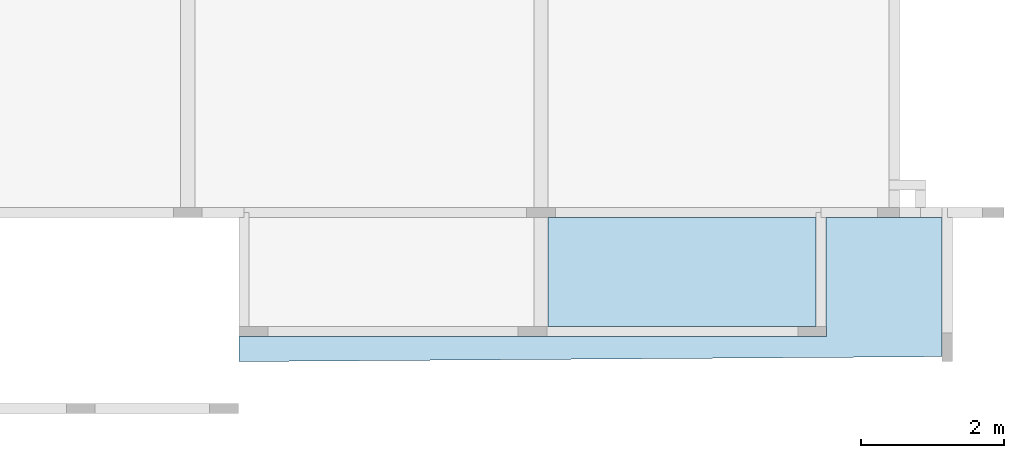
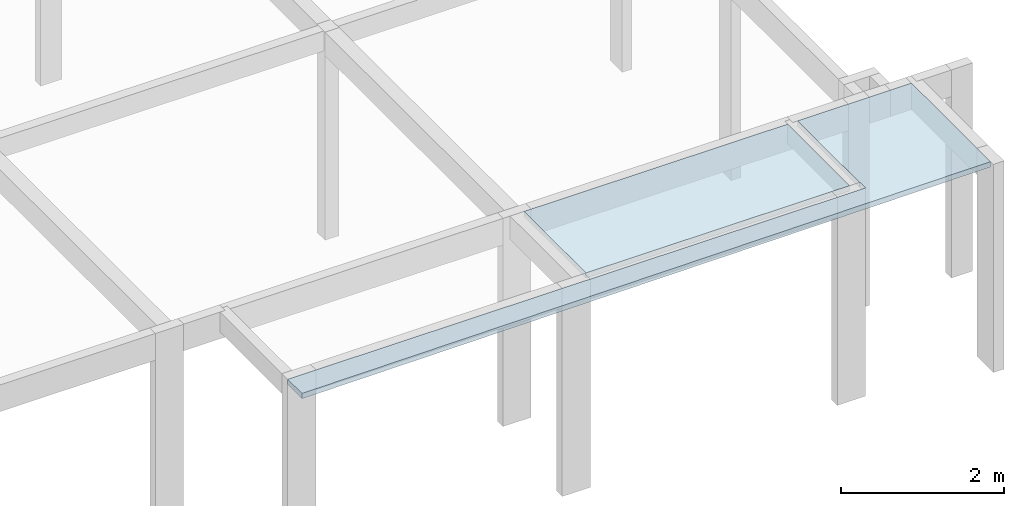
# One storey, part 2 of 7: 2 slabs.
"""IFC4 building model written with IfcOpenShell, lengths in centimetres."""

import ifcopenshell
import ifcopenshell.guid

model = None  # the IFC model being written
_history = None  # IfcOwnerHistory: only IFC2X3 demands one
_inside = {}  # id of a spatial element -> (the spatial element, [elements in it])
_under = {}  # id of a project, library or spatial element -> (it, [spatial elements below it])
_declared = {}  # id of a project -> (the project, [libraries it declares])
_typed = {}  # id of a type object -> (the type object, [elements of that type])
_made_of = {}  # id of a material, layer set ... -> (it, [elements and type objects made of it])


def new_model(schema):
    """Start an empty IFC model of exactly this schema.

    Asked for "IFC4X3", IfcOpenShell would pick the latest addendum, in which some entities
    have other attributes; the version numbers below select the first issue.
    IFC2X3 requires an IfcOwnerHistory on every rooted entity: one is made here for all.
    """
    global model, _history
    if schema == "IFC4X3":
        model = ifcopenshell.file(schema_version=(4, 3, 0, 0))
    else:
        model = ifcopenshell.file(schema=schema)
    _inside.clear()
    _under.clear()
    _declared.clear()
    _typed.clear()
    _made_of.clear()
    _history = None
    if model.schema == "IFC2X3":
        org = make("IfcOrganization", Name="unknown")
        user = make(
            "IfcPersonAndOrganization",
            ThePerson=make("IfcPerson", FamilyName="unknown"),
            TheOrganization=org,
        )
        app = make(
            "IfcApplication",
            ApplicationDeveloper=org,
            Version="unknown",
            ApplicationFullName="unknown",
            ApplicationIdentifier="unknown",
        )
        _history = make(
            "IfcOwnerHistory",
            OwningUser=user,
            OwningApplication=app,
            ChangeAction="ADDED",
            CreationDate=0,
        )
    return model


def make(cls, **values):
    """One entity of the class cls with the attributes given. An attribute that is None is left unset."""
    return model.create_entity(
        cls, **{name: value for name, value in values.items() if value is not None}
    )


def rooted(cls, **values):
    """An entity with a GlobalId (a new one), such as an element, a storey or a relation."""
    return make(cls, GlobalId=ifcopenshell.guid.new(), OwnerHistory=_history, **values)


def si_unit(unit_type, name, prefix=None):
    """IfcSIUnit, for example si_unit("LENGTHUNIT", "METRE", prefix="MILLI")."""
    return make("IfcSIUnit", UnitType=unit_type, Prefix=prefix, Name=name)


def derived_unit(unit_type, elements):
    """IfcDerivedUnit: a product of units, each with its exponent."""
    return make(
        "IfcDerivedUnit",
        Elements=[
            make("IfcDerivedUnitElement", Unit=unit, Exponent=power)
            for unit, power in elements
        ],
        UnitType=unit_type,
    )


def assignment(units):
    """IfcUnitAssignment: the units of a project."""
    return None if units is None else make("IfcUnitAssignment", Units=units)


def point(xyz):
    """IfcCartesianPoint."""
    return None if xyz is None else make("IfcCartesianPoint", Coordinates=xyz)


def direction(xyz):
    """IfcDirection."""
    return None if xyz is None else make("IfcDirection", DirectionRatios=xyz)


def frame(location, z_axis=None, x_axis=None):
    """IfcAxis2Placement3D, a coordinate frame: its origin and axes. An axis left out is left unset."""
    return make(
        "IfcAxis2Placement3D",
        Location=point(location),
        Axis=direction(z_axis),
        RefDirection=direction(x_axis),
    )


def origin_with_axes():
    """The frame at (0, 0, 0) with the z axis (0, 0, 1) and the x axis (1, 0, 0) written out."""
    return frame((0.0, 0.0, 0.0), z_axis=(0.0, 0.0, 1.0), x_axis=(1.0, 0.0, 0.0))


def place(relative_to, where):
    """IfcLocalPlacement: puts the frame where relative to a parent placement (None: the world)."""
    return make(
        "IfcLocalPlacement", PlacementRelTo=relative_to, RelativePlacement=where
    )


def context(
    kind, dimensions, precision=None, world=None, true_north=None, identifier=None
):
    """IfcGeometricRepresentationContext, for example the 3D "Model" context."""
    return make(
        "IfcGeometricRepresentationContext",
        ContextIdentifier=identifier,
        ContextType=kind,
        CoordinateSpaceDimension=dimensions,
        Precision=precision,
        WorldCoordinateSystem=world,
        TrueNorth=true_north,
    )


def project(units=None, contexts=None):
    """IfcProject with its units and contexts."""
    return rooted(
        "IfcProject",
        Name="project",
        RepresentationContexts=contexts,
        UnitsInContext=assignment(units),
    )


def spatial(cls, under=None, at=None, **own):
    """A site, building, storey or space (cls), placed at a placement, below another one or the project."""
    s = rooted(cls, ObjectPlacement=at, **own)
    if under is not None:
        _under.setdefault(under.id(), (under, []))[1].append(s)
    return s


def polyline(points):
    """IfcPolyline through the points."""
    return make("IfcPolyline", Points=[point(p) for p in points])


def outline(outer, holes=None, kind="AREA"):
    """IfcArbitraryClosedProfileDef: a profile drawn as a closed curve; with holes, ...WithVoids."""
    if holes is None:
        return make("IfcArbitraryClosedProfileDef", ProfileType=kind, OuterCurve=outer)
    return make(
        "IfcArbitraryProfileDefWithVoids",
        ProfileType=kind,
        OuterCurve=outer,
        InnerCurves=holes,
    )


def extrude(swept, where, along, depth):
    """IfcExtrudedAreaSolid: the profile swept, set in the frame where, extruded along a direction by depth."""
    return make(
        "IfcExtrudedAreaSolid",
        SweptArea=swept,
        Position=where,
        ExtrudedDirection=direction(along),
        Depth=depth,
    )


def shape(context_of_items, identifier, shape_type, items):
    """IfcShapeRepresentation: the items that make up one representation, for example the "Body"."""
    return make(
        "IfcShapeRepresentation",
        ContextOfItems=context_of_items,
        RepresentationIdentifier=identifier,
        RepresentationType=shape_type,
        Items=items,
    )


def material(Name=None, Category=None):
    """IfcMaterial."""
    return make("IfcMaterial", Name=Name, Category=Category)


def made_of(thing, what):
    """Note that an element or type object is made of a material, layer set ...; save() writes the relation."""
    if what is not None:
        _made_of.setdefault(what.id(), (what, []))[1].append(thing)
    return thing


def element(
    cls,
    number,
    at=None,
    inside=None,
    cuts=None,
    type_object=None,
    material=None,
    context=None,
    identifier="Body",
    shape_type=None,
    held_by="IfcProductDefinitionShape",
    body=None,
    shapes=None,
    **own,
):
    """One element of the class cls, such as IfcWall. Its Tag is "e" and its number.

    at: its placement. inside: the storey or other place that contains it. cuts: it is an
    opening in that element (IfcRelVoidsElement). A single representation is given by context,
    identifier, shape_type and body (its items); several are given by shapes. held_by: the class
    of the entity that holds the representations. save() writes the other relations.
    """
    e = rooted(cls, Tag="e%d" % number, ObjectPlacement=at, **own)
    if body is not None:
        shapes = [shape(context, identifier, shape_type, body)]
    if shapes is not None:
        e.Representation = make(held_by, Representations=shapes)
    if inside is not None:
        _inside.setdefault(inside.id(), (inside, []))[1].append(e)
    if cuts is not None:
        rooted(
            "IfcRelVoidsElement", RelatingBuildingElement=cuts, RelatedOpeningElement=e
        )
    if type_object is not None:
        _typed.setdefault(type_object.id(), (type_object, []))[1].append(e)
    return made_of(e, material)


def aggregate(whole, parts):
    """IfcRelAggregates: a whole, such as a stair, and the parts it consists of."""
    return rooted("IfcRelAggregates", RelatingObject=whole, RelatedObjects=parts)


def save(model, path):
    """Write the relations noted so far, then the file.

    IfcRelAggregates (storeys below a building ...), IfcRelContainedInSpatialStructure (elements
    in a storey), IfcRelDefinesByType, IfcRelAssociatesMaterial and IfcRelDeclares: one each for
    every whole, place, type object, material and project.
    """
    for whole, parts in _under.values():
        aggregate(whole, parts)
    for where, things in _inside.values():
        rooted(
            "IfcRelContainedInSpatialStructure",
            RelatedElements=things,
            RelatingStructure=where,
        )
    for kind, things in _typed.values():
        rooted("IfcRelDefinesByType", RelatedObjects=things, RelatingType=kind)
    for what, things in _made_of.values():
        rooted("IfcRelAssociatesMaterial", RelatedObjects=things, RelatingMaterial=what)
    for by, libraries in _declared.values():
        rooted("IfcRelDeclares", RelatingContext=by, RelatedDefinitions=libraries)
    model.write(path)


model = new_model("IFC4")

# Units and contexts
model_context = context("Model", 3, precision=1e-05, world=origin_with_axes(), identifier="Body")
ifc_project = project(units=[si_unit("LENGTHUNIT", "METRE", prefix="CENTI"), si_unit("VOLUMEUNIT", "CUBIC_METRE"), si_unit("AREAUNIT", "SQUARE_METRE"), si_unit("POWERUNIT", "WATT"), si_unit("LUMINOUSFLUXUNIT", "LUMEN"), si_unit("ELECTRICCURRENTUNIT", "AMPERE"), si_unit("PRESSUREUNIT", "PASCAL", prefix="KILO"), si_unit("MASSUNIT", "GRAM", prefix="KILO"), si_unit("PLANEANGLEUNIT", "RADIAN"), derived_unit("VOLUMETRICFLOWRATEUNIT", [(si_unit("LENGTHUNIT", "METRE"), 3), (si_unit("TIMEUNIT", "SECOND"), -1)])], contexts=[model_context])

# Site, building, storey
site_placement = place(None, origin_with_axes())
site = spatial("IfcSite", under=ifc_project, at=site_placement)
building_placement = place(site_placement, frame((0.0, 0.0, 24.0)))
building = spatial("IfcBuilding", under=site, at=building_placement)
storey_placement = place(building_placement, frame((0.0, 0.0, 312.0), z_axis=(0.0, 0.0, 1.0), x_axis=(1.0, 0.0, 0.0)))
storey = spatial("IfcBuildingStorey", under=building, at=storey_placement, Name="RESPALDO", CompositionType="ELEMENT", Elevation=336.0)

# Slabs
ifc_material = material(Name="Concreto")
slab_1_placement = place(storey_placement, frame((1208.41, 198.0, 0.0), z_axis=(0.0, 0.0, 1.0), x_axis=(1.0, 0.0, 0.0)))
element("IfcSlab", 1, at=slab_1_placement, inside=storey, material=ifc_material, Name="L11", PredefinedType="FLOOR", context=model_context, shape_type="SolidModel", body=[
    extrude(outline(polyline([(186.779, -75.999), (186.78, 75.999), (-186.78, 76.0), (-186.78, -76.0), (186.779, -75.999), (186.779, -75.999)])), frame((0.0, 0.0, -8.0), z_axis=(0.0, 0.0, 1.0), x_axis=(1.0, 0.0, 0.0)), (0.0, 0.0, 1.0), 8.0),
])
slab_2_placement = place(storey_placement, frame((1080.7105, 173.5, 0.0), z_axis=(0.0, 0.0, 1.0), x_axis=(1.0, 0.0, 0.0)))
element("IfcSlab", 2, at=slab_2_placement, inside=storey, material=ifc_material, Name="L12", PredefinedType="FLOOR", context=model_context, shape_type="SolidModel", body=[
    extrude(outline(polyline([(490.019, -93.551), (490.02, 100.5), (328.479, 100.5), (328.479, -51.5), (328.98, -51.5), (328.98, -65.5), (-490.019, -65.5), (-490.019, -100.5), (490.019, -93.551), (490.019, -93.551)])), frame((-0.0005, 0.0, -8.0), z_axis=(0.0, 0.0, 1.0), x_axis=(1.0, 0.0, 0.0)), (0.0, 0.0, 1.0), 8.0),
])

save(model, "model.ifc")
